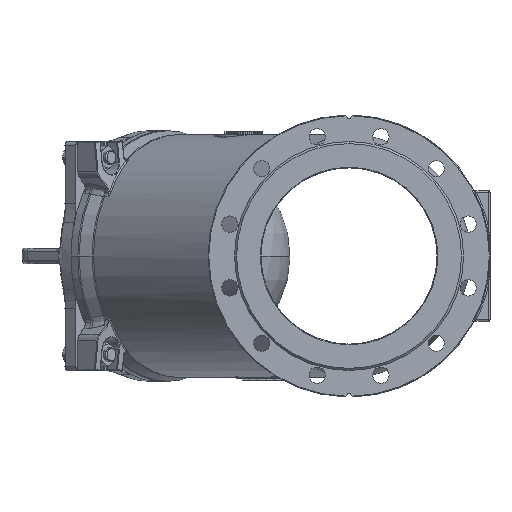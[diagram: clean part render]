
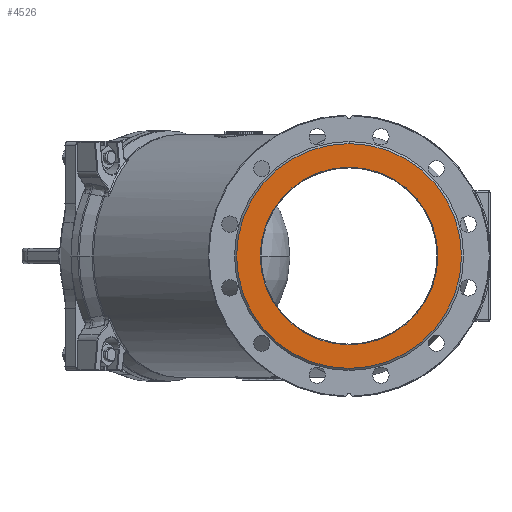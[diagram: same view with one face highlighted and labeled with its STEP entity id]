
A CAD part, left-side view. The second image highlights one B-rep face of the part: STEP entity #4526.
In plain terms, the highlighted planar face has unit normal (-1, 0, 0).
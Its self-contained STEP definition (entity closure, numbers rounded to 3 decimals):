
#213 = DIRECTION ( 'NONE',  ( 0., 0., 1. ) ) ;
#4526 = ADVANCED_FACE ( 'NONE', ( #46068, #6808 ), #29214, .T. ) ;
#5121 = DIRECTION ( 'NONE',  ( 0., 0., 1. ) ) ;
#5248 = ORIENTED_EDGE ( 'NONE', *, *, #15904, .T. ) ;
#6808 = FACE_OUTER_BOUND ( 'NONE', #20787, .T. ) ;
#7402 = AXIS2_PLACEMENT_3D ( 'NONE', #46152, #21448, #50293 ) ;
#7577 = ORIENTED_EDGE ( 'NONE', *, *, #26944, .T. ) ;
#7963 = CARTESIAN_POINT ( 'NONE',  ( -378.166, -31.147, -0.014 ) ) ;
#8142 = DIRECTION ( 'NONE',  ( 0., 0., 1. ) ) ;
#9623 = CIRCLE ( 'NONE', #43323, 159.5 ) ;
#10020 = ORIENTED_EDGE ( 'NONE', *, *, #43914, .T. ) ;
#10025 = VERTEX_POINT ( 'NONE', #37390 ) ;
#10225 = CARTESIAN_POINT ( 'NONE',  ( -378.166, -31.147, -126.014 ) ) ;
#15759 = VERTEX_POINT ( 'NONE', #15767 ) ;
#15767 = CARTESIAN_POINT ( 'NONE',  ( -378.166, -31.147, 125.986 ) ) ;
#15904 = EDGE_CURVE ( 'NONE', #15759, #20691, #30500, .T. ) ;
#17574 = EDGE_LOOP ( 'NONE', ( #5248, #10020 ) ) ;
#20199 = CARTESIAN_POINT ( 'NONE',  ( -378.166, -31.147, -0.014 ) ) ;
#20691 = VERTEX_POINT ( 'NONE', #10225 ) ;
#20787 = EDGE_LOOP ( 'NONE', ( #36555, #7577 ) ) ;
#20924 = CARTESIAN_POINT ( 'NONE',  ( -378.166, -31.147, -0.014 ) ) ;
#21448 = DIRECTION ( 'NONE',  ( 1., 0., 0. ) ) ;
#21601 = AXIS2_PLACEMENT_3D ( 'NONE', #7963, #52795, #8142 ) ;
#23738 = VERTEX_POINT ( 'NONE', #46600 ) ;
#26944 = EDGE_CURVE ( 'NONE', #23738, #10025, #40430, .T. ) ;
#29214 = PLANE ( 'NONE',  #47510 ) ;
#29442 = DIRECTION ( 'NONE',  ( 1., 0., 0. ) ) ;
#30500 = CIRCLE ( 'NONE', #49567, 126. ) ;
#33957 = DIRECTION ( 'NONE',  ( 0., 0., 1. ) ) ;
#34850 = CIRCLE ( 'NONE', #7402, 126. ) ;
#36555 = ORIENTED_EDGE ( 'NONE', *, *, #44840, .T. ) ;
#37318 = DIRECTION ( 'NONE',  ( -1., 0., 0. ) ) ;
#37390 = CARTESIAN_POINT ( 'NONE',  ( -378.166, -31.147, -159.514 ) ) ;
#40430 = CIRCLE ( 'NONE', #21601, 159.5 ) ;
#43323 = AXIS2_PLACEMENT_3D ( 'NONE', #20199, #45066, #213 ) ;
#43914 = EDGE_CURVE ( 'NONE', #20691, #15759, #34850, .T. ) ;
#44840 = EDGE_CURVE ( 'NONE', #10025, #23738, #9623, .T. ) ;
#45066 = DIRECTION ( 'NONE',  ( -1., 0., 0. ) ) ;
#45324 = CARTESIAN_POINT ( 'NONE',  ( -378.166, -31.147, -0.014 ) ) ;
#46068 = FACE_BOUND ( 'NONE', #17574, .T. ) ;
#46152 = CARTESIAN_POINT ( 'NONE',  ( -378.166, -31.147, -0.014 ) ) ;
#46600 = CARTESIAN_POINT ( 'NONE',  ( -378.166, -31.147, 159.486 ) ) ;
#47510 = AXIS2_PLACEMENT_3D ( 'NONE', #20924, #37318, #5121 ) ;
#49567 = AXIS2_PLACEMENT_3D ( 'NONE', #45324, #29442, #33957 ) ;
#50293 = DIRECTION ( 'NONE',  ( 0., 0., 1. ) ) ;
#52795 = DIRECTION ( 'NONE',  ( -1., 0., 0. ) ) ;
